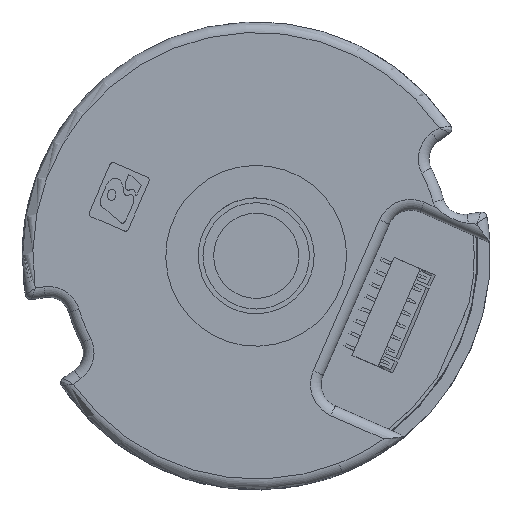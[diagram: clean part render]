
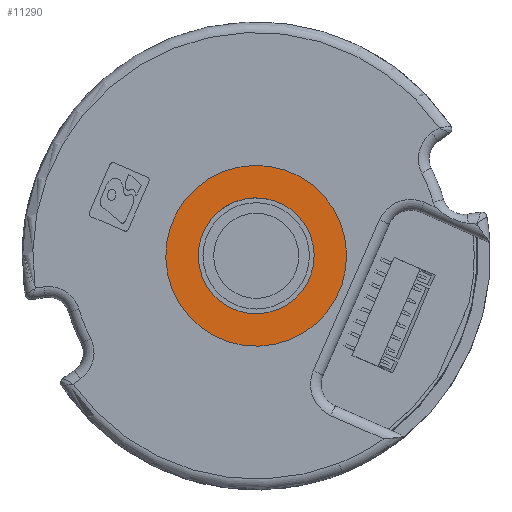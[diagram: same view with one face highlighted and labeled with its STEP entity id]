
A CAD part, top view. The second image highlights one B-rep face of the part: STEP entity #11290.
In plain terms, the highlighted planar face has unit normal (0, 0, 1).
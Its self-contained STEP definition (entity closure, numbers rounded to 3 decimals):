
#28 = CARTESIAN_POINT ( 'NONE',  ( 2.252, -0.428, 35.65 ) ) ;
#377 = EDGE_LOOP ( 'NONE', ( #8731, #11227 ) ) ;
#476 = ORIENTED_EDGE ( 'NONE', *, *, #19889, .T. ) ;
#905 = DIRECTION ( 'NONE',  ( 0., 0., -1. ) ) ;
#1309 = VERTEX_POINT ( 'NONE', #14087 ) ;
#1945 = VERTEX_POINT ( 'NONE', #20723 ) ;
#6322 = DIRECTION ( 'NONE',  ( 0., 0., 1. ) ) ;
#6922 = DIRECTION ( 'NONE',  ( -0.369, 0.929, 0. ) ) ;
#7103 = EDGE_CURVE ( 'NONE', #11876, #14994, #9339, .T. ) ;
#8731 = ORIENTED_EDGE ( 'NONE', *, *, #7103, .T. ) ;
#9339 = CIRCLE ( 'NONE', #15195, 8.5 ) ;
#10373 = DIRECTION ( 'NONE',  ( 0., 0., 1. ) ) ;
#10377 = DIRECTION ( 'NONE',  ( -0.369, 0.929, 0. ) ) ;
#10926 = EDGE_LOOP ( 'NONE', ( #19713, #476 ) ) ;
#11227 = ORIENTED_EDGE ( 'NONE', *, *, #23438, .T. ) ;
#11290 = ADVANCED_FACE ( 'NONE', ( #12208, #18367 ), #14152, .T. ) ;
#11876 = VERTEX_POINT ( 'NONE', #14423 ) ;
#12208 = FACE_BOUND ( 'NONE', #10926, .T. ) ;
#12769 = AXIS2_PLACEMENT_3D ( 'NONE', #16458, #16212, #6922 ) ;
#13409 = AXIS2_PLACEMENT_3D ( 'NONE', #19603, #19844, #10377 ) ;
#13951 = CIRCLE ( 'NONE', #12769, 8.5 ) ;
#14087 = CARTESIAN_POINT ( 'NONE',  ( 4.266, -5.493, 35.65 ) ) ;
#14152 = PLANE ( 'NONE',  #16974 ) ;
#14423 = CARTESIAN_POINT ( 'NONE',  ( -0.887, 7.471, 35.65 ) ) ;
#14954 = CIRCLE ( 'NONE', #13409, 5.45 ) ;
#14994 = VERTEX_POINT ( 'NONE', #19669 ) ;
#15195 = AXIS2_PLACEMENT_3D ( 'NONE', #15605, #6322, #18743 ) ;
#15605 = CARTESIAN_POINT ( 'NONE',  ( 2.252, -0.428, 35.65 ) ) ;
#16212 = DIRECTION ( 'NONE',  ( 0., 0., 1. ) ) ;
#16458 = CARTESIAN_POINT ( 'NONE',  ( 2.252, -0.428, 35.65 ) ) ;
#16974 = AXIS2_PLACEMENT_3D ( 'NONE', #28, #10373, #22062 ) ;
#17521 = CARTESIAN_POINT ( 'NONE',  ( 2.252, -0.428, 35.65 ) ) ;
#18367 = FACE_OUTER_BOUND ( 'NONE', #377, .T. ) ;
#18743 = DIRECTION ( 'NONE',  ( -0.369, 0.929, 0. ) ) ;
#18748 = EDGE_CURVE ( 'NONE', #1945, #1309, #14954, .T. ) ;
#19603 = CARTESIAN_POINT ( 'NONE',  ( 2.252, -0.428, 35.65 ) ) ;
#19669 = CARTESIAN_POINT ( 'NONE',  ( 5.392, -8.327, 35.65 ) ) ;
#19713 = ORIENTED_EDGE ( 'NONE', *, *, #18748, .T. ) ;
#19844 = DIRECTION ( 'NONE',  ( 0., 0., -1. ) ) ;
#19889 = EDGE_CURVE ( 'NONE', #1309, #1945, #22278, .T. ) ;
#20723 = CARTESIAN_POINT ( 'NONE',  ( 0.239, 4.637, 35.65 ) ) ;
#21003 = DIRECTION ( 'NONE',  ( -0.369, 0.929, 0. ) ) ;
#21144 = AXIS2_PLACEMENT_3D ( 'NONE', #17521, #905, #21003 ) ;
#22062 = DIRECTION ( 'NONE',  ( -0.369, 0.929, 0. ) ) ;
#22278 = CIRCLE ( 'NONE', #21144, 5.45 ) ;
#23438 = EDGE_CURVE ( 'NONE', #14994, #11876, #13951, .T. ) ;
